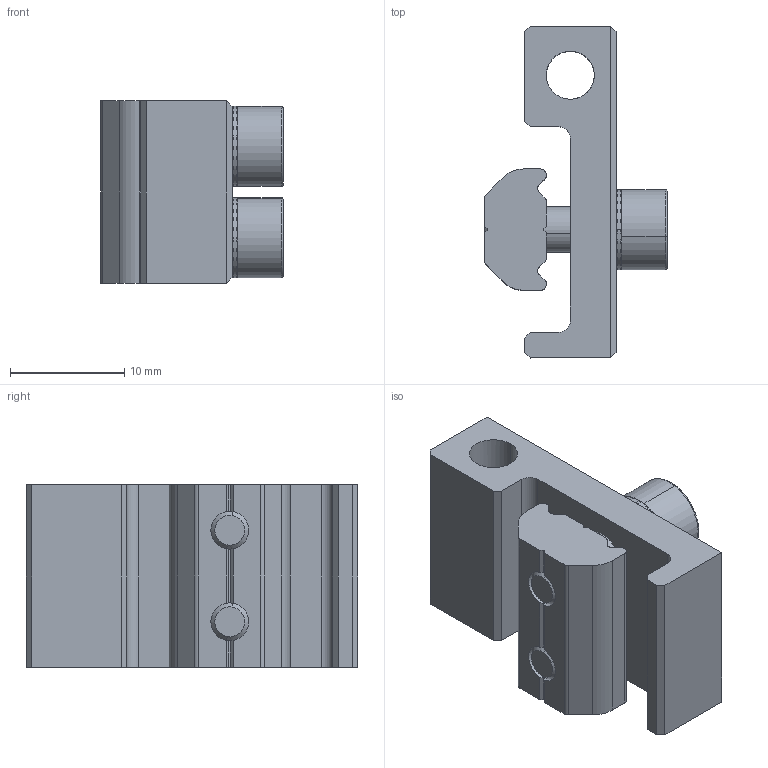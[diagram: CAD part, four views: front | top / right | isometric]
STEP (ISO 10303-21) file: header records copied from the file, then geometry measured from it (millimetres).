
FILE_DESCRIPTION (( 'STEP AP214' ), '1' );
FILE_NAME ('SVB-M5.STEP', '2019-11-07T02:49:32', ( '微软用户' ), ( '微软中国' ), 'SwSTEP 2.0', 'SolidWorks 2016', '' );
FILE_SCHEMA (( 'AUTOMOTIVE_DESIGN' ));
Length unit declared in the file: millimetre
Products named in the file (1): SVB-M5
Bounding box: 16 x 29 x 16 mm (x, y, z)
Volume: 3463.8 mm3; surface area: 3291.3 mm2
Topology: 6 solids, 6 shells, 506 faces, 1469 edges, 970 vertices
Faces by surface type: plane 450, cylinder 48, cone 4, bspline 4
Entity records: 22746 total; most frequent: CARTESIAN_POINT 3398, ORIENTED_EDGE 2938, DIRECTION 2889, EDGE_CURVE 1469, VERTEX_POINT 970, VECTOR 967, LINE 967, AXIS2_PLACEMENT_3D 961
